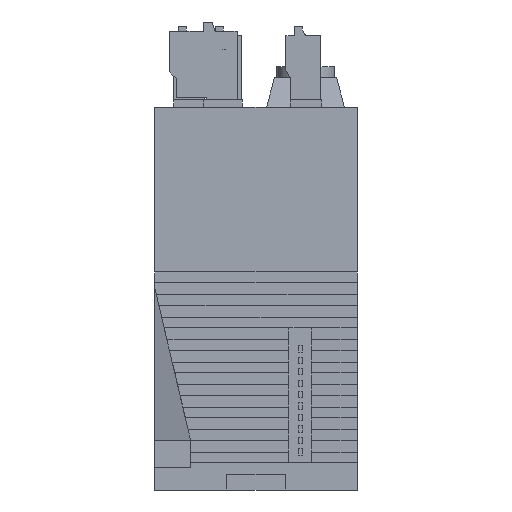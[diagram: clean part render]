
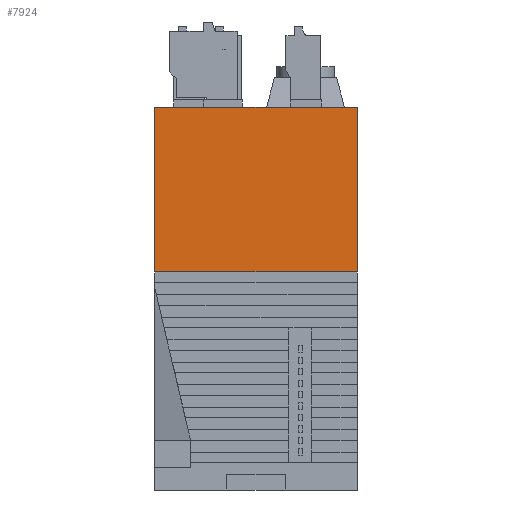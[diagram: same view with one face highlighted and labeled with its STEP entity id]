
A CAD part, front view. The second image highlights one B-rep face of the part: STEP entity #7924.
In plain terms, the highlighted planar face has unit normal (0, -1, 0).
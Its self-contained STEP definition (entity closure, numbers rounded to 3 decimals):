
#1008 = EDGE_LOOP ( 'NONE', ( #6172, #6173, #6174, #6175 ) ) ;
#1294 = EDGE_CURVE ( 'NONE', #2798, #2799, #14059, .T. ) ;
#1310 = EDGE_CURVE ( 'NONE', #2798, #8808, #14091, .T. ) ;
#1315 = EDGE_CURVE ( 'NONE', #8808, #8739, #14106, .T. ) ;
#2798 = VERTEX_POINT ( 'NONE', #18195 ) ;
#2799 = VERTEX_POINT ( 'NONE', #18196 ) ;
#3772 = EDGE_CURVE ( 'NONE', #2799, #8739, #21930, .T. ) ;
#6172 = ORIENTED_EDGE ( 'NONE', *, *, #1315, .T. ) ;
#6173 = ORIENTED_EDGE ( 'NONE', *, *, #3772, .F. ) ;
#6174 = ORIENTED_EDGE ( 'NONE', *, *, #1294, .F. ) ;
#6175 = ORIENTED_EDGE ( 'NONE', *, *, #1310, .T. ) ;
#7924 = ADVANCED_FACE ( 'NONE', ( #28024 ), #29265, .F. ) ;
#8739 = VERTEX_POINT ( 'NONE', #32822 ) ;
#8808 = VERTEX_POINT ( 'NONE', #32891 ) ;
#10255 = AXIS2_PLACEMENT_3D ( 'NONE', #29260, #29270, #29271 ) ;
#12329 = CARTESIAN_POINT ( 'NONE',  ( -22.5, -45., 85. ) ) ;
#12332 = DIRECTION ( 'NONE',  ( 1., 0., 0. ) ) ;
#12361 = CARTESIAN_POINT ( 'NONE',  ( -22.5, -45., 85. ) ) ;
#14059 = LINE ( 'NONE', #12329, #14064 ) ;
#14064 = VECTOR ( 'NONE', #12332, 1000. ) ;
#14091 = LINE ( 'NONE', #12361, #14096 ) ;
#14096 = VECTOR ( 'NONE', #15222, 1000. ) ;
#14106 = LINE ( 'NONE', #15231, #14107 ) ;
#14107 = VECTOR ( 'NONE', #15232, 1000. ) ;
#15222 = DIRECTION ( 'NONE',  ( 0., 0., -1. ) ) ;
#15231 = CARTESIAN_POINT ( 'NONE',  ( 22.5, -45., 48.4 ) ) ;
#15232 = DIRECTION ( 'NONE',  ( 1., 0., 0. ) ) ;
#18195 = CARTESIAN_POINT ( 'NONE',  ( -22.5, -45., 85. ) ) ;
#18196 = CARTESIAN_POINT ( 'NONE',  ( 22.5, -45., 85. ) ) ;
#21930 = LINE ( 'NONE', #22940, #21931 ) ;
#21931 = VECTOR ( 'NONE', #22941, 1000. ) ;
#22940 = CARTESIAN_POINT ( 'NONE',  ( 22.5, -45., 85. ) ) ;
#22941 = DIRECTION ( 'NONE',  ( 0., 0., -1. ) ) ;
#28024 = FACE_OUTER_BOUND ( 'NONE', #1008, .T. ) ;
#29260 = CARTESIAN_POINT ( 'NONE',  ( -22.5, -45., 85. ) ) ;
#29265 = PLANE ( 'NONE',  #10255 ) ;
#29270 = DIRECTION ( 'NONE',  ( 0., 1., 0. ) ) ;
#29271 = DIRECTION ( 'NONE',  ( 0., 0., 1. ) ) ;
#32822 = CARTESIAN_POINT ( 'NONE',  ( 22.5, -45., 48.4 ) ) ;
#32891 = CARTESIAN_POINT ( 'NONE',  ( -22.5, -45., 48.4 ) ) ;
